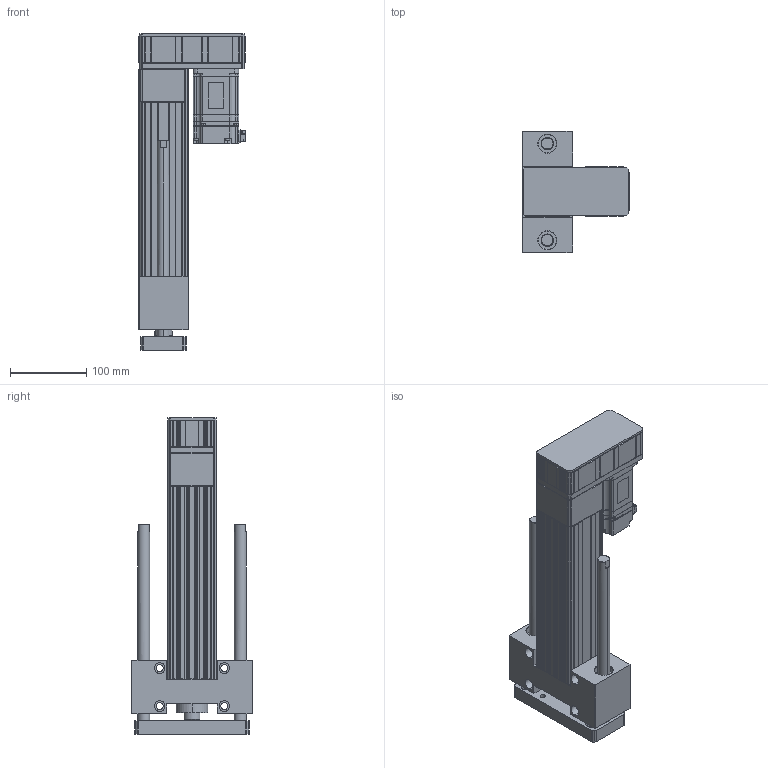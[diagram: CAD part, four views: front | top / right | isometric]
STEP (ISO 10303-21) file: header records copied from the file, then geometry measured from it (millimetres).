
FILE_DESCRIPTION (( 'STEP AP203' ), '1' );
FILE_NAME ('ANS065R-HP150-05(10)(20)-W40.STEP', '2019-03-01T09:37:50', ( 'user' ), ( '' ), 'SwSTEP 2.0', 'SolidWorks 2013', '' );
FILE_SCHEMA (( 'CONFIG_CONTROL_DESIGN' ));
Length unit declared in the file: millimetre
Products named in the file (4): ANS065 ROD ST150 H; sgmjv_04a_a21; ANS065R-HP150-05(10)(20)-W40; ANS065R HP150 VER2
Assembly tree (3 placements, depth 2):
  ANS065R-HP150-05(10)(20)-W40
    ANS065R HP150 VER2
    ANS065 ROD ST150 H
    sgmjv_04a_a21
Bounding box: 140.3 x 160 x 416 mm (x, y, z)
Volume: 1932159.5 mm3; surface area: 419347.9 mm2
Topology: 3 solids, 7 shells, 1457 faces, 3867 edges, 2498 vertices
Faces by surface type: plane 895, cylinder 452, cone 110
Entity records: 45317 total; most frequent: CARTESIAN_POINT 8114, ORIENTED_EDGE 7694, DIRECTION 7647, EDGE_CURVE 3847, LINE 2785, VECTOR 2785, VERTEX_POINT 2498, AXIS2_PLACEMENT_3D 2431
